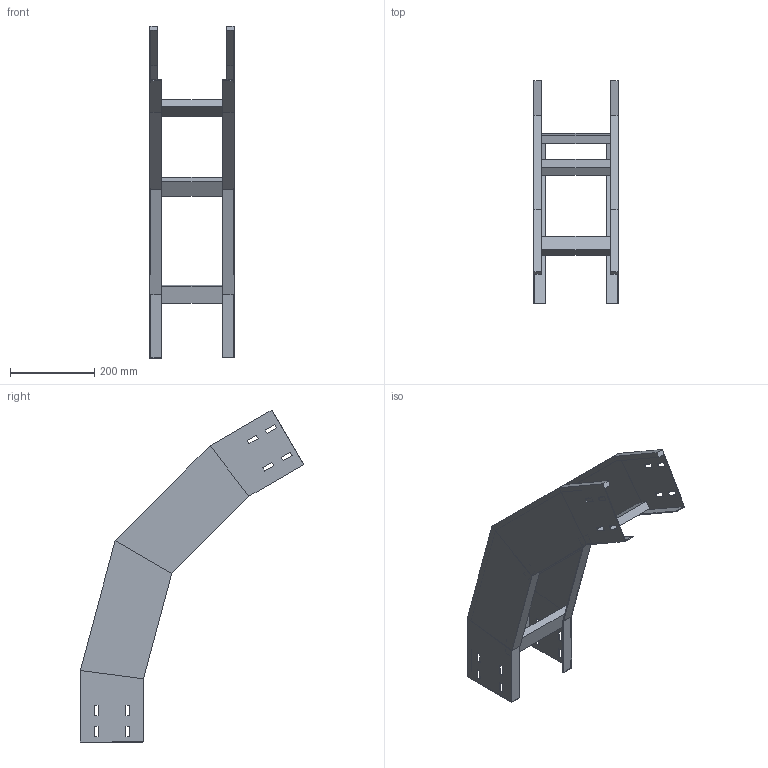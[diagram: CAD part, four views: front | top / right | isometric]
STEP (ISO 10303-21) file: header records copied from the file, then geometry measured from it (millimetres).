
FILE_DESCRIPTION (( 'STEP AP214' ), '1' );
FILE_NAME ('41J5F200.step', '2025-02-21T16:22:26', ( '' ), ( '' ), 'SwSTEP 2.0', 'SolidWorks 2023', '' );
FILE_SCHEMA (( 'AUTOMOTIVE_DESIGN' ));
Length unit declared in the file: millimetre
Products named in the file (3): 41J5F200; LONGH.DISCESA_60°_H150_R500; TRAVERSINO_200
Assembly tree (5 placements, depth 2):
  41J5F200
    LONGH.DISCESA_60°_H150_R500  x2
    TRAVERSINO_200  x3
Bounding box: 200 x 530.08 x 788.22 mm (x, y, z)
Volume: 1462463.6 mm3; surface area: 762996.7 mm2
Topology: 5 solids, 5 shells, 150 faces, 372 edges, 232 vertices
Faces by surface type: plane 150
Entity records: 2216 total; most frequent: CARTESIAN_POINT 372, ORIENTED_EDGE 360, DIRECTION 340, LINE 180, EDGE_CURVE 180, VECTOR 180, VERTEX_POINT 112, EDGE_LOOP 88
